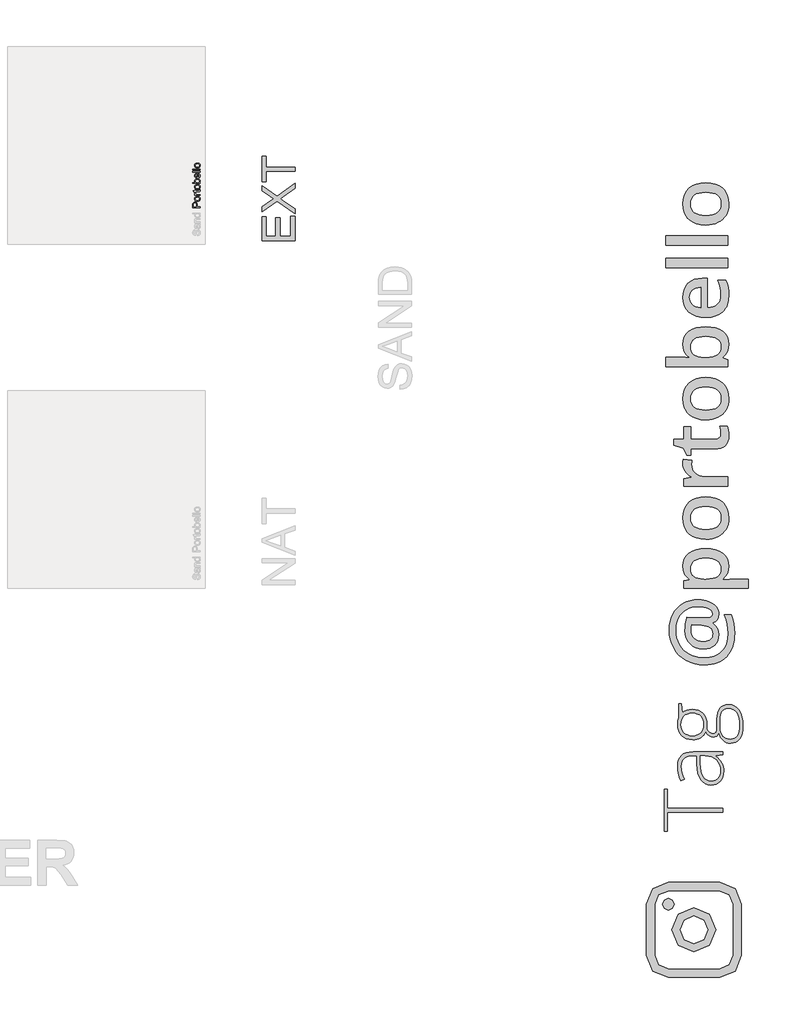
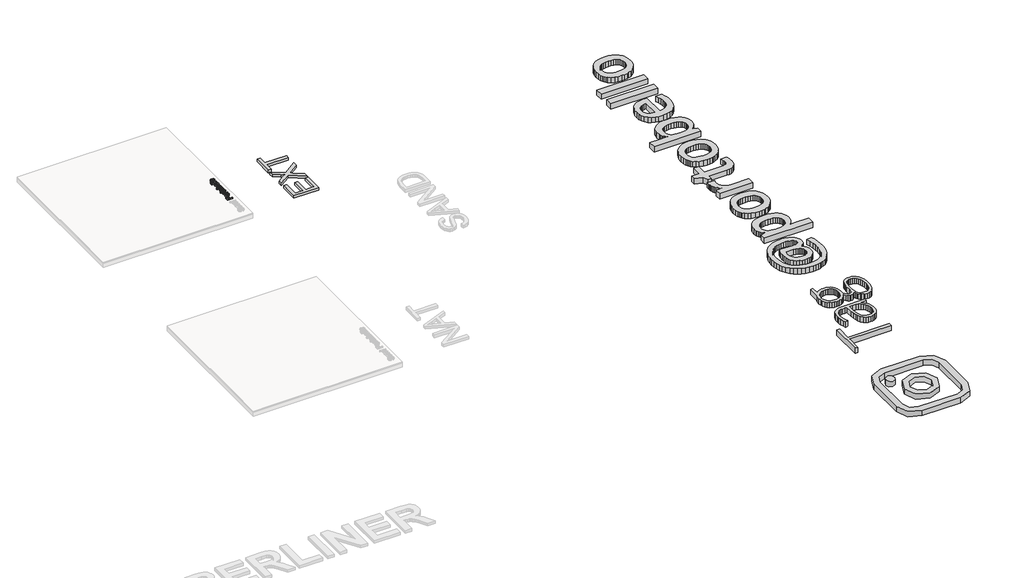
# One storey, part 4 of 12: 5 proxies.
"""IFC4 building model written with IfcOpenShell, lengths in millimetres."""

from ifc_helpers import new_model, si_unit, frame, origin, origin_with_axes, place, context, project, spatial, polyline, outline, extrude, transform, mapped, element, save
from components import generic_models_d67f6705

model = new_model("IFC4")

# Units and contexts
model_context = context("Model", 3, world=origin())
ifc_project = project(units=[si_unit("LENGTHUNIT", "METRE", prefix="MILLI")], contexts=[model_context])

# Site, building, storey
site = spatial("IfcSite", under=ifc_project)
building = spatial("IfcBuilding", under=site)
storey = spatial("IfcBuildingStorey", under=building, Name="PORTOBELLO - SHOWROOM", Elevation=0.0)

# Proxies
placement = place(None, origin())
generic_models_shape = generic_models_d67f6705(model_context)
element("IfcBuildingElementProxy", 1, Name="Blks_Instagram1 : Único 2", ObjectType="Blks_Instagram1 : Único 2", at=placement, inside=storey, context=model_context, shape_type="MappedRepresentation", body=[
    mapped(generic_models_shape, transform((48971.3792535, -13501.2406298, 0.0), x_axis=(-1.0, 0.0, 0.0), y_axis=(0.0, -1.0, 0.0), z_axis=(0.0, 0.0, 1.0))),
])
element("IfcBuildingElementProxy", 2, Name="10mm Arial", ObjectType="10mm Arial", at=placement, inside=storey, context=model_context, shape_type="SweptSolid", body=[
    extrude(outline(polyline([(42219.9517231, -3634.4751583), (42119.495413, -3634.4751583), (42119.495413, -3597.2455004), (42120.4519061, -3582.235915), (42125.148533, -3570.0344955), (42134.8606176, -3562.1250326), (42148.5580906, -3559.1329257), (42160.3977595, -3561.153211), (42170.2631283, -3567.2140669), (42176.9217924, -3578.547898), (42179.1413471, -3596.3871091), (42179.1413471, -3621.9181195), (42219.9517231, -3621.9181195), (42219.9517231, -3634.4751583)]), holes=[polyline([(42166.5843083, -3621.9181195), (42166.5843083, -3595.6513451), (42161.9735207, -3577.1591435), (42156.4246339, -3573.0572592), (42148.999549, -3571.6899645), (42138.6007512, -3574.9150633), (42132.9108431, -3583.3886119), (42132.0524517, -3595.9456507), (42132.0524517, -3621.9181195), (42166.5843083, -3621.9181195)])]), frame((0.0, 0.0, 17.0), z_axis=(0.0, 0.0, 1.0), x_axis=(1.0, 0.0, 0.0)), (0.0, 0.0, 1.0), 20.0),
    extrude(outline(polyline([(42183.0654217, -3546.5758869), (42165.2783273, -3543.8596915), (42152.7764708, -3535.7111053), (42146.6512356, -3525.6434014), (42144.6094905, -3513.5891347), (42147.0957596, -3500.3974995), (42154.5545671, -3489.860746), (42166.3973017, -3482.9537616), (42182.0353521, -3480.6514334), (42204.378052, -3484.7226608), (42217.0209299, -3496.5807238), (42221.521353, -3513.5891347), (42219.0442809, -3526.9401854), (42211.6130646, -3537.4646762), (42199.5220096, -3544.2980842), (42183.0654217, -3546.5758869)]), holes=[polyline([(42183.0408963, -3534.0188482), (42194.4053842, -3532.5657143), (42202.5018538, -3528.2063126), (42207.3486991, -3521.6457504), (42208.9643142, -3513.5891347), (42207.339502, -3505.5693072), (42202.4650656, -3499.0210077), (42194.2612971, -3494.661606), (42182.6484888, -3493.2084722), (42171.6150946, -3494.6708031), (42163.6289896, -3499.0577959), (42158.7821444, -3505.6152925), (42157.1665293, -3513.5891347), (42158.776013, -3521.6457504), (42163.6044642, -3528.2063126), (42171.6825397, -3532.5657143), (42183.0408963, -3534.0188482)])]), frame((0.0, 0.0, 17.0), z_axis=(0.0, 0.0, 1.0), x_axis=(1.0, 0.0, 0.0)), (0.0, 0.0, 1.0), 20.0),
    extrude(outline(polyline([(42219.9517231, -3466.5247648), (42146.1791203, -3466.5247648), (42146.1791203, -3455.5373559), (42157.0929529, -3455.5373559), (42147.0375117, -3447.7382576), (42144.6094905, -3439.8901083), (42148.4845142, -3427.2840186), (42159.7417032, -3431.4778734), (42157.1665293, -3440.3070413), (42159.6436014, -3447.4071638), (42166.5107319, -3451.9321123), (42181.1769608, -3453.967726), (42219.9517231, -3453.967726), (42219.9517231, -3466.5247648)])), frame((0.0, 0.0, 17.0), z_axis=(0.0, 0.0, 1.0), x_axis=(1.0, 0.0, 0.0)), (0.0, 0.0, 1.0), 20.0),
    extrude(outline(polyline([(42209.479349, -3392.752162), (42220.3196051, -3391.1825322), (42221.521353, -3400.5757858), (42219.4366883, -3411.0972108), (42213.9675093, -3416.3456606), (42199.7182134, -3417.8662396), (42158.7361591, -3417.8662396), (42158.7361591, -3427.2840186), (42148.4845142, -3427.2840186), (42146.1791203, -3427.2840186), (42146.1791203, -3417.8662396), (42128.2510044, -3417.8662396), (42120.8688391, -3405.3092008), (42146.1791203, -3405.3092008), (42146.1791203, -3392.752162), (42158.7361591, -3392.752162), (42158.7361591, -3405.3092008), (42199.3503314, -3405.3092008), (42205.8250545, -3404.6470132), (42208.1181856, -3402.5010349), (42208.9643142, -3398.221341), (42209.479349, -3392.752162)])), frame((0.0, 0.0, 17.0), z_axis=(0.0, 0.0, 1.0), x_axis=(1.0, 0.0, 0.0)), (0.0, 0.0, 1.0), 20.0),
    extrude(outline(polyline([(42183.0654217, -3383.3343829), (42165.2783273, -3380.6181875), (42152.7764708, -3372.4696013), (42146.6512356, -3362.4018974), (42144.6094905, -3350.3476307), (42147.0957596, -3337.1559955), (42154.5545671, -3326.619242), (42166.3973017, -3319.7122576), (42182.0353521, -3317.4099294), (42204.378052, -3321.4811568), (42217.0209299, -3333.3392198), (42221.521353, -3350.3476307), (42219.0442809, -3363.6986814), (42211.6130646, -3374.2231722), (42199.5220096, -3381.0565803), (42183.0654217, -3383.3343829)]), holes=[polyline([(42183.0408963, -3370.7773442), (42194.4053842, -3369.3242103), (42202.5018538, -3364.9648086), (42207.3486991, -3358.4042464), (42208.9643142, -3350.3476307), (42207.339502, -3342.3278032), (42202.4650656, -3335.7795037), (42194.2612971, -3331.4201021), (42182.6484888, -3329.9669682), (42171.6150946, -3331.4292991), (42163.6289896, -3335.8162919), (42158.7821444, -3342.3737885), (42157.1665293, -3350.3476307), (42158.776013, -3358.4042464), (42163.6044642, -3364.9648086), (42171.6825397, -3369.3242103), (42183.0408963, -3370.7773442)])]), frame((0.0, 0.0, 17.0), z_axis=(0.0, 0.0, 1.0), x_axis=(1.0, 0.0, 0.0)), (0.0, 0.0, 1.0), 20.0),
    extrude(outline(polyline([(42219.9517231, -3290.726222), (42219.9517231, -3303.2832608), (42119.495413, -3303.2832608), (42119.495413, -3290.726222), (42156.7495963, -3290.726222), (42147.644517, -3281.9338423), (42144.6094905, -3271.0077471), (42147.34408, -3258.4261828), (42155.0328137, -3248.6650472), (42166.9889785, -3242.6685707), (42181.9617757, -3240.4980669), (42198.724932, -3242.7452128), (42211.1961316, -3249.4866504), (42218.9400476, -3259.3796103), (42221.521353, -3271.0813235), (42218.1920209, -3282.246542), (42208.2040247, -3290.726222), (42219.9517231, -3290.726222)]), holes=[polyline([(42182.5503869, -3290.726222), (42200.1106208, -3287.2926567), (42206.7508908, -3280.7137004), (42208.9643142, -3272.160444), (42207.3333707, -3264.9131687), (42202.4405401, -3258.7204884), (42194.3164794, -3254.4714514), (42182.9918453, -3253.0551057), (42171.5016643, -3254.4132034), (42163.4695741, -3258.4874965), (42158.7422905, -3264.4870387), (42157.1665293, -3271.6208837), (42158.7974728, -3278.868159), (42163.6903033, -3285.0608393), (42171.6672112, -3289.3098763), (42182.5503869, -3290.726222)])]), frame((0.0, 0.0, 17.0), z_axis=(0.0, 0.0, 1.0), x_axis=(1.0, 0.0, 0.0)), (0.0, 0.0, 1.0), 20.0),
    extrude(outline(polyline([(42197.9769053, -3174.7207662), (42199.5465351, -3162.4089821), (42208.8232928, -3166.8450258), (42215.7578684, -3173.9236886), (42220.0804818, -3183.4855547), (42221.521353, -3195.3712089), (42219.0350838, -3210.1048828), (42211.5762764, -3221.4417796), (42199.6293086, -3228.6706608), (42183.6785584, -3231.0802879), (42167.1913136, -3228.6461353), (42154.8611354, -3221.3436777), (42147.1724017, -3210.1600651), (42144.6094905, -3196.0824474), (42147.1662704, -3182.4432224), (42154.83661, -3171.5447183), (42167.1422627, -3164.3986106), (42183.604982, -3162.0165746), (42186.9894963, -3162.090151), (42186.9894963, -3218.5232491), (42196.3888813, -3216.3496796), (42203.2989315, -3211.3004993), (42207.5479685, -3204.0133701), (42208.9643142, -3195.1259542), (42206.3400893, -3182.8141701), (42197.9769053, -3174.7207662)]), holes=[polyline([(42174.4324576, -3218.5232491), (42174.4324576, -3174.5736134), (42163.0526412, -3179.601334), (42158.6380572, -3186.9221857), (42157.1665293, -3196.1314983), (42161.8631561, -3211.5948049), (42167.3537948, -3216.4600442), (42174.4324576, -3218.5232491)])]), frame((0.0, 0.0, 17.0), z_axis=(0.0, 0.0, 1.0), x_axis=(1.0, 0.0, 0.0)), (0.0, 0.0, 1.0), 20.0),
    extrude(outline(polyline([(42219.9517231, -3149.4595359), (42119.495413, -3149.4595359), (42119.495413, -3136.9024971), (42219.9517231, -3136.9024971), (42219.9517231, -3149.4595359)])), frame((0.0, 0.0, 17.0), z_axis=(0.0, 0.0, 1.0), x_axis=(1.0, 0.0, 0.0)), (0.0, 0.0, 1.0), 20.0),
    extrude(outline(polyline([(42219.9517231, -3118.066939), (42119.495413, -3118.066939), (42119.495413, -3105.5099002), (42219.9517231, -3105.5099002), (42219.9517231, -3118.066939)])), frame((0.0, 0.0, 17.0), z_axis=(0.0, 0.0, 1.0), x_axis=(1.0, 0.0, 0.0)), (0.0, 0.0, 1.0), 20.0),
    extrude(outline(polyline([(42183.0654217, -3089.8136017), (42165.2783273, -3087.0974063), (42152.7764708, -3078.9488201), (42146.6512356, -3068.8811162), (42144.6094905, -3056.8268495), (42147.0957596, -3043.6352143), (42154.5545671, -3033.0984608), (42166.3973017, -3026.1914763), (42182.0353521, -3023.8891482), (42204.378052, -3027.9603756), (42217.0209299, -3039.8184386), (42221.521353, -3056.8268495), (42219.0442809, -3070.1779002), (42211.6130646, -3080.702391), (42199.5220096, -3087.535799), (42183.0654217, -3089.8136017)]), holes=[polyline([(42183.0408963, -3077.256563), (42194.4053842, -3075.8034291), (42202.5018538, -3071.4440274), (42207.3486991, -3064.8834652), (42208.9643142, -3056.8268495), (42207.339502, -3048.807022), (42202.4650656, -3042.2587225), (42194.2612971, -3037.8993208), (42182.6484888, -3036.446187), (42171.6150946, -3037.9085179), (42163.6289896, -3042.2955107), (42158.7821444, -3048.8530072), (42157.1665293, -3056.8268495), (42158.776013, -3064.8834652), (42163.6044642, -3071.4440274), (42171.6825397, -3075.8034291), (42183.0408963, -3077.256563)])]), frame((0.0, 0.0, 17.0), z_axis=(0.0, 0.0, 1.0), x_axis=(1.0, 0.0, 0.0)), (0.0, 0.0, 1.0), 20.0),
])
element("IfcBuildingElementProxy", 3, Name="450mm Arial", ObjectType="450mm Arial", at=placement, inside=storey, context=model_context, shape_type="SweptSolid", body=[
    extrude(outline(polyline([(43514.4179057, -4082.9511615), (43064.7617629, -4082.9511615), (43064.7617629, -3759.7608089), (43120.9687807, -3759.7608089), (43120.9687807, -4026.7441437), (43254.4604481, -4026.7441437), (43254.4604481, -3773.8125634), (43310.667466, -3773.8125634), (43310.667466, -4026.7441437), (43458.2108879, -4026.7441437), (43458.2108879, -3752.7349317), (43514.4179057, -3752.7349317), (43514.4179057, -4082.9511615)])), origin_with_axes(), (0.0, 0.0, 1.0), 50.0),
    extrude(outline(polyline([(43514.4179057, -3717.6055455), (43269.3904373, -3544.2639807), (43064.7617629, -3689.5020366), (43064.7617629, -3622.0975269), (43179.9202819, -3540.3119247), (43224.8200286, -3512.7573125), (43179.1518266, -3480.4821889), (43064.7617629, -3399.5748214), (43064.7617629, -3331.1822978), (43270.0491133, -3476.4203537), (43514.4179057, -3303.0787888), (43514.4179057, -3370.4832985), (43351.5053774, -3485.9711555), (43317.6933432, -3510.0128292), (43354.7987574, -3536.4696481), (43514.4179057, -3649.2130218), (43514.4179057, -3717.6055455)])), origin_with_axes(), (0.0, 0.0, 1.0), 50.0),
    extrude(outline(polyline([(43514.4179057, -3134.4577353), (43120.9687807, -3134.4577353), (43120.9687807, -3282.0011571), (43064.7617629, -3282.0011571), (43064.7617629, -2930.7072956), (43120.9687807, -2930.7072956), (43120.9687807, -3078.2507174), (43514.4179057, -3078.2507174), (43514.4179057, -3134.4577353)])), origin_with_axes(), (0.0, 0.0, 1.0), 50.0),
])
element("IfcBuildingElementProxy", 4, Name="80mm OpenSans Bold", ObjectType="80mm OpenSans Bold", at=placement, inside=storey, context=model_context, shape_type="SweptSolid", body=[
    extrude(outline(polyline([(49031.7685924, -8989.9050274), (49069.8742071, -8991.4523873), (49106.3122786, -8996.0944669), (49141.082807, -9003.8312662), (49174.1857922, -9014.6627853), (49204.6672793, -9028.3035888), (49231.5733136, -9044.4682415), (49254.9038949, -9063.1567432), (49274.6590234, -9084.369094), (49290.3805001, -9107.7146983), (49301.6101264, -9132.8029603), (49308.3479021, -9159.63388), (49310.5938273, -9188.2074574), (49304.885121, -9228.8294097), (49297.7492381, -9246.9770867), (49287.7590021, -9263.6825641), (49275.3350544, -9278.3599485), (49260.8980366, -9290.4233463), (49244.4479486, -9299.8727576), (49225.9847905, -9306.7081822), (49225.9847905, -9313.4384465), (49263.0012441, -9343.6044526), (49289.4415681, -9380.2603563), (49305.3057625, -9422.6249663), (49310.5938273, -9469.9170913), (49307.0409088, -9512.5821596), (49296.3821532, -9550.4398962), (49278.6175605, -9583.4903012), (49253.7471307, -9611.7333746), (49222.8074448, -9634.3428562), (49186.8350835, -9650.4924859), (49145.830047, -9660.1822637), (49099.7923351, -9663.4121897), (49046.6487861, -9659.1306599), (48998.7482332, -9646.2860707), (48956.0906764, -9624.878422), (48918.6761157, -9594.9077139), (48888.2321858, -9557.7260082), (48866.4865216, -9514.6853672), (48853.4391231, -9465.7857907), (48849.0899902, -9411.0272788), (48850.9227854, -9366.7096902), (48856.421171, -9317.8852283), (48865.1645054, -9269.6616828), (48876.7321471, -9227.1468437), (49127.9152252, -9239.4055393), (49140.654654, -9239.4055393), (49178.5123906, -9235.8000406), (49205.5536311, -9224.9835444), (49215.0180652, -9216.8711723), (49221.7783754, -9206.9560508), (49227.1866235, -9181.7175597), (49223.7238424, -9160.9634076), (49213.3354992, -9142.4476694), (49196.0215938, -9126.1703449), (49171.7821263, -9112.1314342), (49142.1794795, -9100.8266934), (49108.7760361, -9092.7518786), (49071.5717961, -9087.9069897), (49030.5667595, -9086.2920267), (48985.4754911, -9088.7107154), (48943.2235528, -9095.9667816), (48903.8109449, -9108.0602253), (48867.2376672, -9124.9910464), (48834.0971247, -9146.3836722), (48804.9827225, -9171.8625298), (48779.8944605, -9201.4276194), (48758.8323388, -9235.0789409), (48742.1644186, -9272.0803715), (48730.2587613, -9311.6957888), (48723.115367, -9353.9251927), (48720.7342355, -9398.7685831), (48723.7237949, -9455.7429744), (48732.692473, -9508.8865234), (48747.6402698, -9558.1992299), (48768.5671853, -9603.6810941), (48795.0450666, -9644.6711078), (48826.6457607, -9680.5082628), (48863.3692675, -9711.1925593), (48905.2155871, -9736.7239971), (48951.4035281, -9756.8096296), (49001.1518991, -9771.15651), (49054.4607, -9779.7646382), (49111.329931, -9782.6340143), (49185.5055559, -9777.2783464), (49250.5923194, -9761.2113427), (49279.7273781, -9749.1610899), (49306.5902215, -9734.4330032), (49331.1808495, -9717.0270825), (49353.4992622, -9696.9433278), (49373.3576732, -9674.3582585), (49390.568296, -9649.4483936), (49405.1311307, -9622.2137331), (49417.0461773, -9592.6542772), (49432.932906, -9526.5609786), (49438.2284823, -9451.1684979), (49435.1337626, -9389.454378), (49425.8496033, -9326.418242), (49410.3760046, -9262.0600897), (49388.7129664, -9196.3799212), (49478.8504346, -9196.3799212), (49499.461869, -9255.6002378), (49514.1843222, -9317.4044951), (49523.017794, -9381.7926932), (49525.9622847, -9448.7648321), (49524.2665735, -9498.3798747), (49519.1794402, -9545.1893887), (49510.7008846, -9589.1933739), (49498.8309067, -9630.3918305), (49483.5695067, -9668.7847584), (49464.9166843, -9704.3721575), (49442.8724398, -9737.154028), (49417.436773, -9767.1303697), (49388.9664781, -9793.9180986), (49357.8183492, -9817.1341302), (49323.9923864, -9836.7784647), (49287.4885897, -9852.851102), (49248.306959, -9865.3520421), (49206.4474943, -9874.281285), (49161.9101957, -9879.6388308), (49114.6950632, -9881.4246794), (49045.6272282, -9877.5637912), (48980.480373, -9865.9811265), (48919.2544978, -9846.6766854), (48861.9496024, -9819.6504679), (48809.8501458, -9785.7738027), (48764.2405868, -9745.9180189), (48725.1209257, -9700.0831163), (48692.4911622, -9648.269095), (48666.7794494, -9591.6477421), (48648.4139402, -9531.3908446), (48637.3946347, -9467.4984026), (48633.7215329, -9399.970416), (48636.7862068, -9341.749123), (48645.9802286, -9286.7878018), (48661.3035982, -9235.0864523), (48682.7563156, -9186.6450746), (48709.8726706, -9142.4626923), (48742.186953, -9103.5383289), (48779.6991626, -9069.8719846), (48822.4092997, -9041.4636592), (48869.476081, -9018.9067578), (48920.0582235, -9002.7946853), (48974.1557273, -8993.1274419), (49031.7685924, -8989.9050274)]), holes=[polyline([(49101.7152677, -9558.1316268), (49131.1226167, -9556.542954), (49156.6089859, -9551.7769353), (49178.1743751, -9543.8335709), (49195.8187845, -9532.7128608), (49209.5422141, -9518.4148049), (49219.3446637, -9500.9394033), (49225.2261335, -9480.2866559), (49227.1866235, -9456.4565627), (49224.722866, -9431.1730029), (49217.3315936, -9408.9240712), (49205.0128063, -9389.7097675), (49187.766504, -9373.530092), (49165.5926869, -9360.3850445), (49138.4913548, -9350.2746252), (49106.4625077, -9343.1988339), (49069.5061458, -9339.1576708), (48940.9100245, -9332.4274065), (48934.0595769, -9368.7227604), (48931.7760944, -9407.42178), (48934.637959, -9441.0355442), (48943.2235528, -9470.7283285), (48957.5328759, -9496.500133), (48977.5659282, -9518.3509575), (49002.4964496, -9535.7550004), (49031.49818, -9548.1864595), (49064.5711194, -9555.645335), (49101.7152677, -9558.1316268)])]), origin_with_axes(), (0.0, 0.0, 1.0), 100.0),
    extrude(outline(polyline([(49449.0449785, -8531.2855893), (49443.8470512, -8584.8422683), (49428.2532692, -8632.0592787), (49402.2636325, -8672.9366205), (49365.8781412, -8707.4742937), (49365.8781412, -8715.1660244), (49459.8614747, -8707.4742937), (49710.5638195, -8707.4742937), (49710.5638195, -8836.3107816), (48833.706529, -8836.3107816), (48833.706529, -8731.9916851), (48910.8642018, -8713.9641914), (48910.8642018, -8707.4742937), (48889.1748735, -8691.6439009), (48870.3774556, -8673.9581785), (48854.4719482, -8654.4171265), (48841.4583513, -8633.020745), (48831.3366647, -8609.769034), (48824.1068886, -8584.6619933), (48818.3230678, -8528.8819234), (48823.4834378, -8476.07639), (48838.964548, -8429.4302502), (48864.7663982, -8388.9435041), (48900.8889886, -8354.6161516), (48946.325784, -8327.2744529), (49000.0702494, -8307.7446682), (49062.1223848, -8296.0267973), (49132.4821902, -8292.1208403), (49203.0147591, -8296.0944004), (49265.3448183, -8308.0150806), (49319.472368, -8327.8828808), (49365.397408, -8355.6978012), (49401.9932201, -8390.5133983), (49428.1330859, -8431.3832287), (49443.8170053, -8478.3072923), (49449.0449785, -8531.2855893)]), holes=[polyline([(48926.0072964, -8562.7736115), (48928.8015579, -8597.859621), (48937.1843425, -8627.8829093), (48951.15565, -8652.8434766), (48970.7154806, -8672.7413227), (48996.4046591, -8687.9369975), (49028.7640102, -8698.791051), (49067.7935339, -8705.303483), (49113.4932302, -8707.4742937), (49132.4821902, -8707.4742937), (49183.8305013, -8705.3260174), (49227.5471733, -8698.8811884), (49263.6322064, -8688.1398068), (49292.0856005, -8673.1018725), (49313.6434784, -8653.1814921), (49329.0419625, -8627.7927719), (49338.281053, -8596.9357119), (49341.3607498, -8560.6103122), (49337.9505489, -8529.6856492), (49327.7199463, -8502.5317369), (49310.6689419, -8479.1485754), (49286.7975357, -8459.5361646), (49256.6315297, -8444.0250086), (49220.6967257, -8432.9456115), (49178.9931238, -8426.2979732), (49131.5207239, -8424.0820938), (49083.8905834, -8426.2829503), (49042.4348595, -8432.8855198), (49007.1535522, -8443.8898024), (48978.0466614, -8459.295798), (48955.2794392, -8478.9683004), (48939.0171377, -8502.7721035), (48929.2597567, -8530.7072072), (48926.0072964, -8562.7736115)])]), origin_with_axes(), (0.0, 0.0, 1.0), 100.0),
    extrude(outline(polyline([(49132.4821902, -7584.0008903), (49203.0147591, -7588.8082219), (49265.3448183, -7603.2302168), (49319.472368, -7627.266875), (49365.397408, -7660.9181964), (49385.0023073, -7681.0902107), (49401.9932201, -7703.1476003), (49416.3701463, -7727.0903653), (49428.1330859, -7752.9185056), (49443.8170053, -7810.2309125), (49449.0449785, -7875.0848209), (49446.6338012, -7916.7358426), (49439.4002694, -7955.8780382), (49427.344383, -7992.5114075), (49410.4661421, -8026.6359507), (49389.0885392, -8057.6131939), (49363.534567, -8084.8046635), (49333.8042254, -8108.2103594), (49299.8975145, -8127.8302817), (49262.437885, -8143.3414376), (49222.0487878, -8154.4208348), (49178.7302228, -8161.068473), (49132.4821902, -8163.2843525), (49062.5129805, -8158.5145781), (49000.6711659, -8144.205255), (48946.9567463, -8120.3563833), (48901.3697218, -8086.9679627), (48881.9056622, -8066.9104982), (48865.0368106, -8044.8962995), (48850.763167, -8020.9253665), (48839.0847313, -7994.9976994), (48823.5134836, -7937.2721625), (48818.3230678, -7871.7196887), (48823.6411784, -7808.8262703), (48839.5955103, -7752.8283682), (48866.1860634, -7703.7259824), (48903.4128377, -7661.5191129), (48949.638336, -7627.6048905), (49003.2250608, -7603.3804459), (49064.1730122, -7588.8457792), (49132.4821902, -7584.0008903)]), holes=[polyline([(49132.4821902, -8030.6019993), (49181.4381026, -8028.1382418), (49223.86656, -8020.7469694), (49259.7675625, -8008.4281821), (49289.1411099, -7991.1818799), (49311.9872024, -7969.0080627), (49328.3058398, -7941.9067306), (49338.0970223, -7909.8778836), (49341.3607498, -7872.9215216), (49338.0970223, -7836.3031752), (49328.3058398, -7804.5672749), (49311.9872024, -7777.7138209), (49289.1411099, -7755.742813), (49259.7675625, -7738.6542513), (49223.86656, -7726.4481358), (49181.4381026, -7719.1244665), (49132.4821902, -7716.6832434), (49084.089637, -7719.1394894), (49042.1494242, -7726.5082275), (49006.6615518, -7738.7894575), (48977.6260199, -7755.9831796), (48955.0428284, -7778.0893936), (48938.9119773, -7805.1080997), (48929.2334666, -7837.0392978), (48926.0072964, -7873.882988), (48929.3423827, -7912.2740379), (48939.3476417, -7945.0014504), (48956.0230733, -7972.0652252), (48979.3686776, -7993.4653624), (49008.9487901, -8009.7126411), (49044.3277463, -8021.3178401), (49085.5055464, -8028.2809595), (49132.4821902, -8030.6019993)])]), origin_with_axes(), (0.0, 0.0, 1.0), 100.0),
    extrude(outline(polyline([(48818.3230678, -7133.3135493), (48819.7051756, -7098.6406699), (48823.8514991, -7070.5778715), (48944.0347901, -7082.8365671), (48938.9870918, -7110.2383575), (48937.3045258, -7138.6016141), (48940.4443142, -7174.6566014), (48949.8636797, -7207.10609), (48965.562622, -7235.9500798), (48987.5411414, -7261.1885709), (49014.5373131, -7281.6948449), (49045.2892127, -7296.3421835), (49079.7968401, -7305.1305866), (49118.0601953, -7308.0600543), (49433.6615172, -7308.0600543), (49433.6615172, -7436.8965422), (48833.706529, -7436.8965422), (48833.706529, -7335.9425778), (48935.8623263, -7318.8765505), (48935.8623263, -7312.3866528), (48910.2182166, -7296.5900615), (48887.3683684, -7278.5250106), (48867.3127817, -7258.1915), (48850.0514566, -7235.5895299), (48836.1702865, -7211.3951311), (48826.255165, -7186.2843348), (48820.3060921, -7160.2571409), (48818.3230678, -7133.3135493)])), origin_with_axes(), (0.0, 0.0, 1.0), 100.0),
    extrude(outline(polyline([(49341.3607498, -6714.3545972), (49337.6951595, -6666.4615558), (49326.6983883, -6618.4483311), (49426.4505198, -6618.4483311), (49435.2839917, -6643.206089), (49442.5550808, -6674.213378), (49447.4225041, -6708.9463491), (49449.0449785, -6744.8811531), (49446.0103504, -6788.2598097), (49436.9064661, -6825.8546453), (49421.7333256, -6857.6656602), (49400.490929, -6883.6928541), (49373.1792761, -6903.9362272), (49339.798367, -6918.3957794), (49300.3482018, -6927.0715107), (49254.8287804, -6929.9634211), (48926.0072964, -6929.9634211), (48926.0072964, -7013.6109916), (48871.9248155, -7013.6109916), (48827.2166313, -6923.9542566), (48695.2553779, -6879.9671721), (48695.2553779, -6800.4058335), (48833.706529, -6800.4058335), (48833.706529, -6624.6978622), (48926.0072964, -6624.6978622), (48926.0072964, -6800.4058335), (49250.5021819, -6800.4058335), (49272.1877544, -6798.9260767), (49290.8537218, -6794.4868064), (49306.500084, -6787.0880226), (49319.126841, -6776.7297252), (49328.8541761, -6763.9527391), (49335.8022726, -6749.297889), (49341.3607498, -6714.3545972)])), origin_with_axes(), (0.0, 0.0, 1.0), 100.0),
    extrude(outline(polyline([(49132.4821902, -5953.3539991), (49203.0147591, -5958.1613308), (49265.3448183, -5972.5833257), (49319.472368, -5996.6199839), (49365.397408, -6030.2713053), (49385.0023073, -6050.4433195), (49401.9932201, -6072.5007092), (49416.3701463, -6096.4434741), (49428.1330859, -6122.2716145), (49443.8170053, -6179.5840214), (49449.0449785, -6244.4379297), (49446.6338012, -6286.0889515), (49439.4002694, -6325.231147), (49427.344383, -6361.8645164), (49410.4661421, -6395.9890596), (49389.0885392, -6426.9663028), (49363.534567, -6454.1577724), (49333.8042254, -6477.5634683), (49299.8975145, -6497.1833905), (49262.437885, -6512.6945465), (49222.0487878, -6523.7739436), (49178.7302228, -6530.4215819), (49132.4821902, -6532.6374613), (49062.5129805, -6527.867687), (49000.6711659, -6513.5583639), (48946.9567463, -6489.7094921), (48901.3697218, -6456.3210716), (48881.9056622, -6436.2636071), (48865.0368106, -6414.2494083), (48850.763167, -6390.2784754), (48839.0847313, -6364.3508082), (48823.5134836, -6306.6252713), (48818.3230678, -6241.0727976), (48823.6411784, -6178.1793792), (48839.5955103, -6122.181477), (48866.1860634, -6073.0790912), (48903.4128377, -6030.8722218), (48949.638336, -5996.9579994), (49003.2250608, -5972.7335548), (49064.1730122, -5958.198888), (49132.4821902, -5953.3539991)]), holes=[polyline([(49132.4821902, -6399.9551082), (49181.4381026, -6397.4913507), (49223.86656, -6390.1000783), (49259.7675625, -6377.781291), (49289.1411099, -6360.5349887), (49311.9872024, -6338.3611716), (49328.3058398, -6311.2598395), (49338.0970223, -6279.2309924), (49341.3607498, -6242.2746305), (49338.0970223, -6205.656284), (49328.3058398, -6173.9203838), (49311.9872024, -6147.0669297), (49289.1411099, -6125.0959218), (49259.7675625, -6108.0073602), (49223.86656, -6095.8012447), (49181.4381026, -6088.4775754), (49132.4821902, -6086.0363523), (49084.089637, -6088.4925983), (49042.1494242, -6095.8613363), (49006.6615518, -6108.1425664), (48977.6260199, -6125.3362884), (48955.0428284, -6147.4425025), (48938.9119773, -6174.4612086), (48929.2334666, -6206.3924067), (48926.0072964, -6243.2360968), (48929.3423827, -6281.6271468), (48939.3476417, -6314.3545592), (48956.0230733, -6341.418334), (48979.3686776, -6362.8184713), (49008.9487901, -6379.0657499), (49044.3277463, -6390.6709489), (49085.5055464, -6397.6340684), (49132.4821902, -6399.9551082)])]), origin_with_axes(), (0.0, 0.0, 1.0), 100.0),
    extrude(outline(polyline([(48818.3230678, -5498.3400597), (48823.4834378, -5445.5345263), (48838.964548, -5398.8883865), (48864.7663982, -5358.4016404), (48900.8889886, -5324.0742879), (48946.325784, -5296.7325892), (49000.0702494, -5277.2028044), (49062.1223848, -5265.4849336), (49132.4821902, -5261.5789766), (49203.2100569, -5265.5300023), (49265.6452765, -5277.3830794), (49319.7878491, -5297.1382078), (49365.6377746, -5324.7953876), (49402.1284263, -5359.48329), (49428.1931775, -5400.330586), (49443.8320282, -5447.3372756), (49449.0449785, -5500.503359), (49443.8470512, -5554.1651984), (49428.2532692, -5601.4573233), (49402.2636325, -5642.3797339), (49365.8781412, -5676.93243), (49365.8781412, -5685.585627), (49433.6615172, -5709.141552), (49433.6615172, -5805.7689179), (48587.5711492, -5805.7689179), (48587.5711492, -5676.93243), (48787.5561453, -5676.93243), (48853.536772, -5679.0957293), (48909.1816357, -5682.2204948), (48909.1816357, -5676.93243), (48887.8866588, -5660.8917164), (48869.4310122, -5643.0557649), (48853.8146959, -5623.4245755), (48841.0377097, -5601.9981481), (48831.1000539, -5578.7764829), (48824.0017283, -5553.7595797), (48818.3230678, -5498.3400597)]), holes=[polyline([(48926.0072964, -5532.2317478), (48928.8541381, -5567.775956), (48937.3946632, -5597.9720079), (48951.6288718, -5622.8199033), (48971.5567637, -5642.3196422), (48998.1548282, -5657.102187), (49032.3995547, -5667.7984999), (49074.290943, -5674.4085809), (49123.8289933, -5676.93243), (49132.4821902, -5676.93243), (49183.8305013, -5674.7841537), (49227.5471733, -5668.3393247), (49263.6322064, -5657.5979431), (49292.0856005, -5642.5600088), (49313.6434784, -5622.6396284), (49329.0419625, -5597.2509081), (49338.281053, -5566.3938482), (49341.3607498, -5530.0684485), (49337.9881062, -5498.5578919), (49327.8701754, -5471.0884985), (49311.0069574, -5447.6602682), (49287.3984522, -5428.2732011), (49257.4202326, -5413.0775263), (49221.4478713, -5402.2234728), (49179.4813684, -5395.7110407), (49131.5207239, -5393.54023), (49083.3535143, -5395.707285), (49041.6085994, -5402.2084499), (49006.285979, -5413.0437247), (48977.3856533, -5428.2131095), (48954.9076222, -5447.7166042), (48938.8518856, -5471.5542088), (48929.2184437, -5499.7259233), (48926.0072964, -5532.2317478)])]), origin_with_axes(), (0.0, 0.0, 1.0), 100.0),
    extrude(outline(polyline([(49449.0449785, -4832.7649946), (49443.8695855, -4899.5793929), (49428.3434066, -4958.6870377), (49416.6987725, -4985.3508275), (49402.4664418, -5010.0879289), (49385.6464147, -5032.898342), (49366.238691, -5053.7820666), (49320.9220789, -5088.6427324), (49267.77853, -5113.543208), (49206.8080442, -5128.4834934), (49138.0106216, -5133.4635885), (49067.4780527, -5128.8440433), (49004.9076269, -5114.9854075), (48950.2993441, -5091.8876813), (48903.6532043, -5059.5508646), (48866.3212696, -5019.1317216), (48839.6556019, -4971.7870164), (48823.6562013, -4917.5167491), (48818.3230678, -4856.3209197), (48822.8149183, -4799.6019178), (48836.2904698, -4749.14747), (48858.7497222, -4704.9575762), (48890.1926757, -4667.0322365), (48929.5076348, -4636.5883066), (48975.5829039, -4614.8426424), (49028.4184832, -4601.7952439), (49088.0143726, -4597.446111), (49156.759215, -4597.446111), (49156.759215, -5000.7812353), (49198.6581148, -4996.8151867), (49235.4191789, -4987.5610733), (49267.0424073, -4973.0188951), (49293.5278, -4953.1886521), (49314.4547156, -4928.4308942), (49329.4025124, -4899.1061712), (49338.3711905, -4865.2144832), (49341.3607498, -4826.7558301), (49338.8369007, -4774.9868775), (49331.2653534, -4726.8835153), (49317.8048248, -4678.9003364), (49297.6140319, -4627.4919338), (49405.5386272, -4627.4919338), (49425.8496033, -4674.8741962), (49439.1899486, -4722.7972834), (49446.581221, -4774.3859611), (49449.0449785, -4832.7649946)]), holes=[polyline([(48910.6238352, -4856.5612862), (48913.0800812, -4885.5780395), (48920.4488192, -4911.5751877), (48932.7300493, -4934.5527306), (48949.9237713, -4954.5106683), (48971.8196646, -4971.1034739), (48998.2074084, -4983.9856204), (49029.0870027, -4993.1571078), (49064.4584476, -4998.6179361), (49064.4584476, -4724.1192996), (49028.8917049, -4726.8309351), (48997.9069502, -4733.7640087), (48971.5041835, -4744.9185204), (48949.6834047, -4760.2944702), (48932.5948431, -4779.4261478), (48920.3887276, -4801.847843), (48913.0650583, -4827.5595558), (48910.6238352, -4856.5612862)])]), origin_with_axes(), (0.0, 0.0, 1.0), 100.0),
    extrude(outline(polyline([(49433.6615172, -4323.6685743), (49433.6615172, -4452.5050622), (48587.5711492, -4452.5050622), (48587.5711492, -4323.6685743), (49433.6615172, -4323.6685743)])), origin_with_axes(), (0.0, 0.0, 1.0), 100.0),
    extrude(outline(polyline([(49433.6615172, -4015.9993496), (49433.6615172, -4144.8358374), (48587.5711492, -4144.8358374), (48587.5711492, -4015.9993496), (49433.6615172, -4015.9993496)])), origin_with_axes(), (0.0, 0.0, 1.0), 100.0),
    extrude(outline(polyline([(49132.4821902, -3292.0152051), (49203.0147591, -3296.8225367), (49265.3448183, -3311.2445316), (49319.472368, -3335.2811898), (49365.397408, -3368.9325113), (49385.0023073, -3389.1045255), (49401.9932201, -3411.1619151), (49416.3701463, -3435.1046801), (49428.1330859, -3460.9328205), (49443.8170053, -3518.2452273), (49449.0449785, -3583.0991357), (49446.6338012, -3624.7501575), (49439.4002694, -3663.892353), (49427.344383, -3700.5257224), (49410.4661421, -3734.6502655), (49389.0885392, -3765.6275088), (49363.534567, -3792.8189783), (49333.8042254, -3816.2246743), (49299.8975145, -3835.8445965), (49262.437885, -3851.3557525), (49222.0487878, -3862.4351496), (49178.7302228, -3869.0827879), (49132.4821902, -3871.2986673), (49062.5129805, -3866.528893), (49000.6711659, -3852.2195699), (48946.9567463, -3828.3706981), (48901.3697218, -3794.9822776), (48881.9056622, -3774.924813), (48865.0368106, -3752.9106143), (48850.763167, -3728.9396814), (48839.0847313, -3703.0120142), (48823.5134836, -3645.2864773), (48818.3230678, -3579.7340036), (48823.6411784, -3516.8405851), (48839.5955103, -3460.842683), (48866.1860634, -3411.7402972), (48903.4128377, -3369.5334277), (48949.638336, -3335.6192053), (49003.2250608, -3311.3947608), (49064.1730122, -3296.860094), (49132.4821902, -3292.0152051)]), holes=[polyline([(49132.4821902, -3738.6163141), (49181.4381026, -3736.1525567), (49223.86656, -3728.7612843), (49259.7675625, -3716.442497), (49289.1411099, -3699.1961947), (49311.9872024, -3677.0223775), (49328.3058398, -3649.9210454), (49338.0970223, -3617.8921984), (49341.3607498, -3580.9358365), (49338.0970223, -3544.31749), (49328.3058398, -3512.5815898), (49311.9872024, -3485.7281357), (49289.1411099, -3463.7571278), (49259.7675625, -3446.6685661), (49223.86656, -3434.4624507), (49181.4381026, -3427.1387814), (49132.4821902, -3424.6975583), (49084.089637, -3427.1538043), (49042.1494242, -3434.5225423), (49006.6615518, -3446.8037723), (48977.6260199, -3463.9974944), (48955.0428284, -3486.1037085), (48938.9119773, -3513.1224146), (48929.2334666, -3545.0536127), (48926.0072964, -3581.8973028), (48929.3423827, -3620.2883528), (48939.3476417, -3653.0157652), (48956.0230733, -3680.07954), (48979.3686776, -3701.4796773), (49008.9487901, -3717.7269559), (49044.3277463, -3729.3321549), (49085.5055464, -3736.2952743), (49132.4821902, -3738.6163141)])]), origin_with_axes(), (0.0, 0.0, 1.0), 100.0),
])
element("IfcBuildingElementProxy", 5, Name="80mm OpenSans Light", ObjectType="80mm OpenSans Light", at=placement, inside=storey, context=model_context, shape_type="SweptSolid", body=[
    extrude(outline(polyline([(49363.0922382, -11839.7446899), (49363.0922382, -11896.2308367), (48609.3026376, -11896.2308367), (48609.3026376, -12154.8652787), (48563.1522538, -12154.8652787), (48563.1522538, -11581.3506145), (48609.3026376, -11581.3506145), (48609.3026376, -11839.7446899), (49363.0922382, -11839.7446899)])), origin_with_axes(), (0.0, 0.0, 1.0), 100.0),
    extrude(outline(polyline([(49363.0922382, -11109.7513809), (49267.4263386, -11123.4522761), (49267.4263386, -11127.7788746), (49295.6018089, -11150.6512571), (49319.3154745, -11173.8391208), (49338.5673354, -11197.3424656), (49353.3573916, -11221.1612916), (49364.3466513, -11246.2270192), (49372.1961225, -11273.471069), (49376.9058052, -11302.8934409), (49378.4756994, -11334.4941349), (49375.583789, -11376.3780118), (49366.9080577, -11413.3343738), (49352.4485055, -11445.3632208), (49332.2051324, -11472.4645529), (49306.8539695, -11494.0224307), (49277.0710477, -11509.4209149), (49242.8563671, -11518.6600054), (49204.2099276, -11521.7397022), (49161.9880352, -11517.1502028), (49124.7387265, -11503.3817045), (49092.4620014, -11480.4342074), (49065.15786, -11448.3077114), (49043.2619667, -11407.4979727), (49027.2099859, -11358.5007473), (49017.0019176, -11301.3160352), (49012.6377619, -11235.9438364), (49009.2726297, -11121.2889769), (48968.891044, -11121.2889769), (48928.2690916, -11123.467299), (48892.9352041, -11130.0022654), (48862.8893814, -11140.8938762), (48838.1316235, -11156.1421312), (48818.7821136, -11176.2427866), (48804.9610352, -11201.6915985), (48796.6683881, -11232.4885668), (48793.9041724, -11268.6336915), (48796.7885714, -11310.8330495), (48805.4417683, -11353.7835531), (48819.8637632, -11397.4852023), (48840.0545561, -11441.937997), (48792.9427061, -11462.3691565), (48773.1725547, -11413.0038697), (48759.051018, -11363.9390412), (48750.578096, -11315.1746709), (48747.7537887, -11266.7107589), (48750.9912261, -11220.32752), (48760.7035383, -11180.2088352), (48776.8907253, -11146.3547045), (48799.5527871, -11118.7651277), (48829.0652965, -11097.3649905), (48865.8038262, -11082.0791782), (48909.7683763, -11072.9076908), (48960.9589468, -11069.8505283), (49363.0922382, -11069.8505283), (49363.0922382, -11109.7513809)]), holes=[polyline([(49332.3253157, -11331.609736), (49328.7573743, -11285.8499479), (49318.0535499, -11245.1979498), (49300.2138427, -11209.6537415), (49275.2382525, -11179.2173231), (49243.9229938, -11154.820115), (49207.0642807, -11137.3935378), (49164.6621134, -11126.9375915), (49116.7164918, -11123.4522761), (49055.4230134, -11123.4522761), (49059.9899785, -11228.9732055), (49064.8949591, -11287.9832014), (49073.3603696, -11337.8592671), (49085.3862102, -11378.6014027), (49100.9724807, -11410.2096082), (49120.7501435, -11433.8706936), (49145.3501609, -11450.7714689), (49174.7725328, -11460.9119341), (49209.0172592, -11464.2920891), (49236.5993245, -11462.1212784), (49260.9364409, -11455.6088464), (49282.0286085, -11444.7547929), (49299.8758272, -11429.5591181), (49314.0724784, -11410.4124175), (49324.2129436, -11387.705287), (49330.2972227, -11361.4377265), (49332.3253157, -11331.609736)])]), origin_with_axes(), (0.0, 0.0, 1.0), 100.0),
    extrude(outline(polyline([(48763.1372499, -10413.6497599), (48801.595903, -10413.6497599), (48809.2876336, -10536.9578164), (48841.436664, -10515.2947782), (48875.1480771, -10499.8211795), (48910.4218729, -10490.5370203), (48947.2580516, -10487.4423006), (48989.8480053, -10491.0027306), (49028.201498, -10501.6840205), (49062.3185298, -10519.4861705), (49092.1991005, -10544.4091805), (49116.4911481, -10575.341355), (49133.8426108, -10611.1709986), (49144.2534883, -10651.8981113), (49147.7237809, -10697.5226931), (49144.3586487, -10754.0088398), (49162.6565548, -10782.4021423), (49183.8989514, -10803.1638058), (49207.3046473, -10815.8731888), (49232.0924511, -10820.1096498), (49256.4295675, -10814.7314476), (49265.7587954, -10808.0086947), (49273.1951366, -10798.5968407), (49282.9299831, -10769.7828967), (49286.174932, -10726.3666829), (49286.174932, -10622.5283196), (49288.6386895, -10577.1516158), (49296.0299618, -10537.4085038), (49308.3487492, -10503.2989835), (49325.5950514, -10474.823055), (49347.6637082, -10452.371314), (49374.4495592, -10436.3343561), (49405.9526043, -10426.7121814), (49442.1728436, -10423.5047898), (49486.8284476, -10428.2670527), (49526.0908265, -10442.5538414), (49559.9599802, -10466.3651559), (49588.4359086, -10499.7009962), (49610.9928101, -10541.8252397), (49627.1048825, -10592.0017637), (49636.772126, -10650.2305681), (49639.9945404, -10716.5116531), (49637.2378362, -10769.3547438), (49628.9677235, -10815.8731888), (49615.1842023, -10856.0669882), (49595.8872727, -10889.9361418), (49571.6628281, -10916.8046188), (49543.0967621, -10935.9963881), (49510.1890748, -10947.5114496), (49472.9397661, -10951.3498035), (49442.9089663, -10948.9761835), (49415.5522447, -10941.8553235), (49390.8696013, -10929.9872235), (49368.8610361, -10913.3718836), (49349.8270074, -10892.6853346), (49334.0679734, -10868.6036077), (49321.5839341, -10841.1267028), (49312.3748894, -10810.25462), (49298.9744525, -10834.4715531), (49280.8868672, -10853.2802381), (49258.9534166, -10865.3586588), (49234.0153837, -10869.3847991), (49206.0276999, -10864.6225362), (49179.7526279, -10850.3357475), (49155.1901678, -10826.524433), (49132.3403196, -10793.1885927), (49119.5858679, -10817.8186558), (49103.6766047, -10839.5492971), (49084.6125302, -10858.3805165), (49062.3936443, -10874.312314), (49037.7260238, -10886.9841398), (49011.3157457, -10896.0354439), (48983.1628098, -10901.4662263), (48953.2672162, -10903.2764871), (48909.054788, -10899.746103), (48869.4393707, -10889.1549505), (48834.4209644, -10871.5030296), (48803.9995688, -10846.7903404), (48779.39204, -10816.0684867), (48761.8152337, -10780.3890722), (48751.26915, -10739.7520969), (48747.7537887, -10694.1575609), (48751.599654, -10642.2984709), (48763.1372499, -10603.5393596), (48763.1372499, -10413.6497599)]), holes=[polyline([(49466.2095018, -10893.9021904), (49496.123874, -10891.0666159), (49522.0496633, -10882.5598924), (49543.9868696, -10868.3820198), (49561.935493, -10848.5329981), (49575.8955334, -10823.0128274), (49585.8669908, -10791.8215077), (49591.8498653, -10754.959039), (49593.8441567, -10712.4254212), (49591.4142008, -10657.7232452), (49584.1243331, -10610.3146926), (49571.9745535, -10570.1997635), (49554.9648621, -10537.3784579), (49533.0952589, -10511.8507758), (49506.3657439, -10493.6167171), (49474.776317, -10482.6762819), (49438.3269783, -10479.0294702), (49412.359876, -10481.3129527), (49390.2236161, -10488.1634003), (49371.9181986, -10499.5808129), (49357.4436235, -10515.5651906), (49346.4543638, -10536.6573582), (49338.6048927, -10563.3981404), (49333.8952099, -10595.7875373), (49332.3253157, -10633.8255489), (49332.3253157, -10730.933648), (49334.4172561, -10769.1294001), (49340.6930773, -10802.2323853), (49351.1527794, -10830.2426035), (49365.7963622, -10853.1600548), (49384.6238259, -10870.9847392), (49407.6351704, -10883.7166565), (49434.8303957, -10891.355807), (49466.2095018, -10893.9021904)]), polyline([(48952.5461164, -10848.2325399), (48986.0096515, -10845.6260648), (49015.492115, -10837.8066394), (49040.9935071, -10824.7742638), (49062.5138276, -10806.5289379), (49079.6023893, -10783.9269678), (49091.8085048, -10757.8246593), (49099.1321741, -10728.2220125), (49101.5733971, -10695.1190273), (49099.147197, -10660.2658729), (49091.8685964, -10629.739317), (49079.7375955, -10603.5393596), (49062.7541942, -10581.6660006), (49041.173782, -10564.4196984), (49015.2517484, -10552.1009111), (48984.9880935, -10544.7096387), (48950.3828172, -10542.2458812), (48913.6593103, -10544.7847532), (48881.8482955, -10552.4013693), (48854.9497727, -10565.0957294), (48832.963742, -10582.8678336), (48815.8751803, -10605.1918798), (48803.6690648, -10631.5420664), (48796.3453955, -10661.9183932), (48793.9041724, -10696.3208602), (48796.5256704, -10729.7768838), (48804.3901645, -10759.4771796), (48817.4976547, -10785.4217475), (48835.8481409, -10807.6105876), (48858.8707526, -10825.3826917), (48885.9946191, -10838.0770518), (48917.2197403, -10845.6936679), (48952.5461164, -10848.2325399)])]), origin_with_axes(), (0.0, 0.0, 1.0), 100.0),
])

save(model, "model.ifc")
